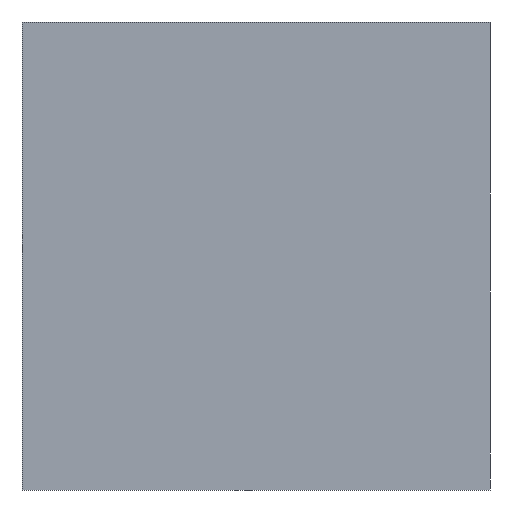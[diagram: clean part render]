
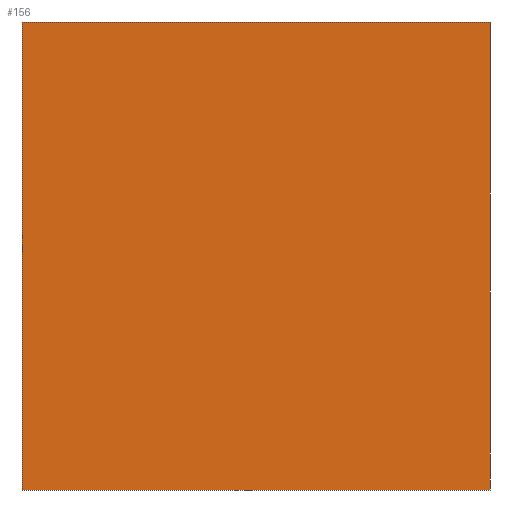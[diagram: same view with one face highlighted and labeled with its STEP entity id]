
A CAD part, left-side view. The second image highlights one B-rep face of the part: STEP entity #156.
In plain terms, the highlighted planar face has unit normal (-1, 0, 0).
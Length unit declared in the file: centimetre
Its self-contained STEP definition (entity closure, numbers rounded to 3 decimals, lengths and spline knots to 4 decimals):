
#33 = CARTESIAN_POINT ( 'NONE',  ( 0., 1000., 1000. ) ) ;
#34 = VECTOR ( 'NONE', #295, 100. ) ;
#40 = EDGE_CURVE ( 'NONE', #209, #167, #368, .T. ) ;
#49 = FACE_OUTER_BOUND ( 'NONE', #478, .T. ) ;
#52 = DIRECTION ( 'NONE',  ( 0., 0., -1. ) ) ;
#59 = ORIENTED_EDGE ( 'NONE', *, *, #484, .T. ) ;
#88 = ORIENTED_EDGE ( 'NONE', *, *, #40, .F. ) ;
#91 = LINE ( 'NONE', #390, #196 ) ;
#95 = CARTESIAN_POINT ( 'NONE',  ( 0., 1000., 0. ) ) ;
#105 = ORIENTED_EDGE ( 'NONE', *, *, #193, .T. ) ;
#113 = DIRECTION ( 'NONE',  ( 0., -1., 0. ) ) ;
#153 = VECTOR ( 'NONE', #113, 100. ) ;
#156 = ADVANCED_FACE ( 'NONE', ( #49 ), #232, .F. ) ;
#157 = CARTESIAN_POINT ( 'NONE',  ( 0., 1000., 1000. ) ) ;
#167 = VERTEX_POINT ( 'NONE', #197 ) ;
#193 = EDGE_CURVE ( 'NONE', #209, #358, #226, .T. ) ;
#196 = VECTOR ( 'NONE', #469, 100. ) ;
#197 = CARTESIAN_POINT ( 'NONE',  ( 0., 0., 1000. ) ) ;
#209 = VERTEX_POINT ( 'NONE', #422 ) ;
#226 = LINE ( 'NONE', #157, #448 ) ;
#232 = PLANE ( 'NONE',  #283 ) ;
#249 = CARTESIAN_POINT ( 'NONE',  ( 0., 0., 0. ) ) ;
#254 = LINE ( 'NONE', #477, #34 ) ;
#263 = EDGE_CURVE ( 'NONE', #167, #439, #91, .T. ) ;
#283 = AXIS2_PLACEMENT_3D ( 'NONE', #311, #384, #52 ) ;
#295 = DIRECTION ( 'NONE',  ( 0., -1., 0. ) ) ;
#301 = ORIENTED_EDGE ( 'NONE', *, *, #263, .F. ) ;
#304 = DIRECTION ( 'NONE',  ( 0., 0., -1. ) ) ;
#311 = CARTESIAN_POINT ( 'NONE',  ( 0., 1000., 1000. ) ) ;
#358 = VERTEX_POINT ( 'NONE', #95 ) ;
#368 = LINE ( 'NONE', #33, #153 ) ;
#384 = DIRECTION ( 'NONE',  ( 1., 0., 0. ) ) ;
#390 = CARTESIAN_POINT ( 'NONE',  ( 0., 0., 1000. ) ) ;
#422 = CARTESIAN_POINT ( 'NONE',  ( 0., 1000., 1000. ) ) ;
#439 = VERTEX_POINT ( 'NONE', #249 ) ;
#448 = VECTOR ( 'NONE', #304, 100. ) ;
#469 = DIRECTION ( 'NONE',  ( 0., 0., -1. ) ) ;
#477 = CARTESIAN_POINT ( 'NONE',  ( 0., 1000., 0. ) ) ;
#478 = EDGE_LOOP ( 'NONE', ( #59, #301, #88, #105 ) ) ;
#484 = EDGE_CURVE ( 'NONE', #358, #439, #254, .T. ) ;
